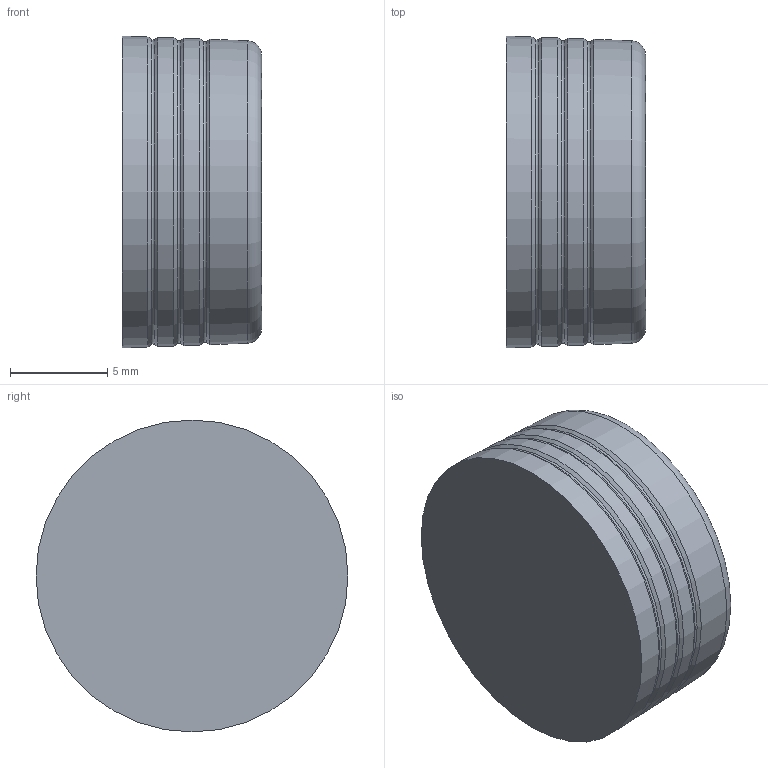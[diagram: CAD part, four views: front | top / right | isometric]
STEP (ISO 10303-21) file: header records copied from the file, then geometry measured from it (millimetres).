
FILE_DESCRIPTION(/* description */ ('LEE BETAPLUG, 16mm, SHORT, INDENT'),/* implementation_level */ '2;1');
FILE_NAME(/* name */ '\\ABSOLUTE\SmWork\Vernon\PLBA1604610S.stp',/* time_stamp */ '2021-03-23T15:13:23-04:00',/* author */ ('VernonJ'),/* organization */ (''),/* preprocessor_version */ 'ST-DEVELOPER v18',/* originating_system */ 'Autodesk Inventor 2020',/* authorisation */ '');
FILE_SCHEMA (('AUTOMOTIVE_DESIGN { 1 0 10303 214 3 1 1 }'));
Length unit declared in the file: millimetre
Products named in the file (1): PLBA1604610S
Bounding box: 7.17 x 16.07 x 16.07 mm (x, y, z)
Volume: 1394.1 mm3; surface area: 746.1 mm2
Topology: 1 solids, 1 shells, 16 faces, 51 edges, 37 vertices
Faces by surface type: cone 10, torus 4, plane 2
Entity records: 649 total; most frequent: DIRECTION 126, CARTESIAN_POINT 105, ORIENTED_EDGE 102, AXIS2_PLACEMENT_3D 58, EDGE_CURVE 51, CIRCLE 41, VERTEX_POINT 37, FACE_OUTER_BOUND 16
